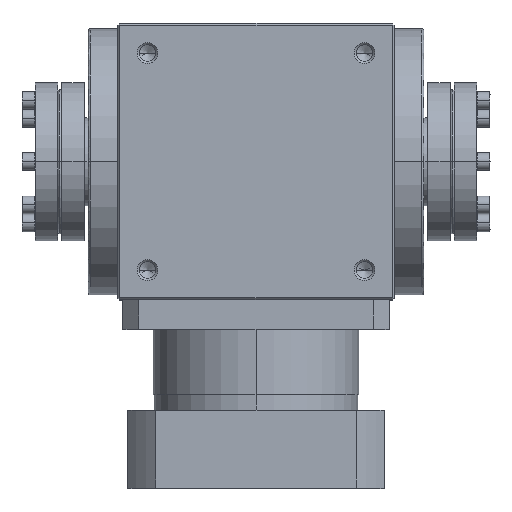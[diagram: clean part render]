
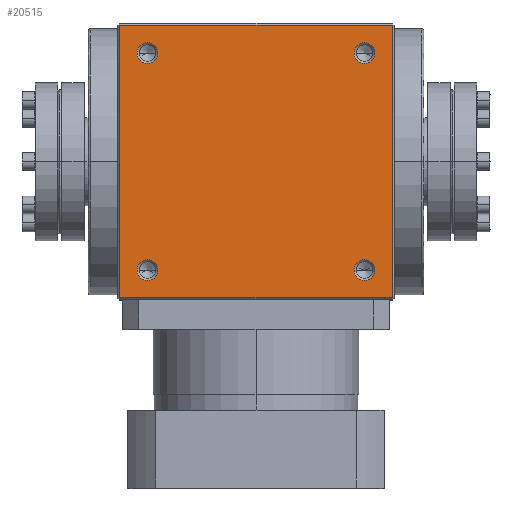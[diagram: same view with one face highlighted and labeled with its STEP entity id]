
A CAD part, top view. The second image highlights one B-rep face of the part: STEP entity #20515.
In plain terms, the highlighted planar face has unit normal (0, 0, 1).
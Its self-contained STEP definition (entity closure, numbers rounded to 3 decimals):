
#351 = FACE_OUTER_BOUND ( 'NONE', #15514, .T. ) ;
#423 = EDGE_CURVE ( 'NONE', #3936, #12280, #15466, .T. ) ;
#440 = ORIENTED_EDGE ( 'NONE', *, *, #22420, .F. ) ;
#893 = FACE_BOUND ( 'NONE', #7172, .T. ) ;
#1141 = CARTESIAN_POINT ( 'NONE',  ( -69., 69., 70. ) ) ;
#1149 = VERTEX_POINT ( 'NONE', #17119 ) ;
#1211 = CARTESIAN_POINT ( 'NONE',  ( 69., -69., 70. ) ) ;
#1248 = VERTEX_POINT ( 'NONE', #21735 ) ;
#1268 = CARTESIAN_POINT ( 'NONE',  ( 69., -69., 70. ) ) ;
#1317 = CARTESIAN_POINT ( 'NONE',  ( 49.75, 55., 70. ) ) ;
#1320 = ORIENTED_EDGE ( 'NONE', *, *, #13632, .F. ) ;
#1633 = DIRECTION ( 'NONE',  ( 0., 0., 1. ) ) ;
#1705 = ORIENTED_EDGE ( 'NONE', *, *, #11712, .F. ) ;
#1845 = DIRECTION ( 'NONE',  ( 1., 0., 0. ) ) ;
#2389 = VECTOR ( 'NONE', #15256, 1000. ) ;
#2392 = VERTEX_POINT ( 'NONE', #20912 ) ;
#2545 = AXIS2_PLACEMENT_3D ( 'NONE', #5990, #18102, #7710 ) ;
#2561 = ORIENTED_EDGE ( 'NONE', *, *, #423, .F. ) ;
#3005 = DIRECTION ( 'NONE',  ( -1., 0., 0. ) ) ;
#3133 = EDGE_LOOP ( 'NONE', ( #4556, #9568 ) ) ;
#3520 = EDGE_CURVE ( 'NONE', #1149, #3580, #12619, .T. ) ;
#3580 = VERTEX_POINT ( 'NONE', #13787 ) ;
#3582 = CARTESIAN_POINT ( 'NONE',  ( -55., -55., 70. ) ) ;
#3839 = AXIS2_PLACEMENT_3D ( 'NONE', #16820, #6438, #18562 ) ;
#3921 = DIRECTION ( 'NONE',  ( 0., 0., 1. ) ) ;
#3936 = VERTEX_POINT ( 'NONE', #1141 ) ;
#4502 = DIRECTION ( 'NONE',  ( 0., 0., 1. ) ) ;
#4507 = AXIS2_PLACEMENT_3D ( 'NONE', #3582, #13934, #1845 ) ;
#4556 = ORIENTED_EDGE ( 'NONE', *, *, #10674, .F. ) ;
#4812 = CARTESIAN_POINT ( 'NONE',  ( 0., -69., 70. ) ) ;
#4830 = EDGE_LOOP ( 'NONE', ( #12104, #14197 ) ) ;
#4972 = FACE_BOUND ( 'NONE', #9645, .T. ) ;
#5522 = ORIENTED_EDGE ( 'NONE', *, *, #8971, .F. ) ;
#5836 = VERTEX_POINT ( 'NONE', #1317 ) ;
#5854 = DIRECTION ( 'NONE',  ( 1., 0., 0. ) ) ;
#5990 = CARTESIAN_POINT ( 'NONE',  ( -55., -55., 70. ) ) ;
#6438 = DIRECTION ( 'NONE',  ( 0., 0., 1. ) ) ;
#6503 = EDGE_CURVE ( 'NONE', #3580, #1149, #13236, .T. ) ;
#6636 = AXIS2_PLACEMENT_3D ( 'NONE', #7016, #19137, #8780 ) ;
#6743 = CARTESIAN_POINT ( 'NONE',  ( -69., 0., 70. ) ) ;
#7016 = CARTESIAN_POINT ( 'NONE',  ( -55., 55., 70. ) ) ;
#7172 = EDGE_LOOP ( 'NONE', ( #14712, #1320 ) ) ;
#7556 = DIRECTION ( 'NONE',  ( 0., -1., 0. ) ) ;
#7568 = CARTESIAN_POINT ( 'NONE',  ( 0., 69., 70. ) ) ;
#7710 = DIRECTION ( 'NONE',  ( 1., 0., 0. ) ) ;
#8352 = EDGE_CURVE ( 'NONE', #9013, #9847, #11037, .T. ) ;
#8458 = DIRECTION ( 'NONE',  ( 0., 0., 1. ) ) ;
#8780 = DIRECTION ( 'NONE',  ( 1., 0., 0. ) ) ;
#8971 = EDGE_CURVE ( 'NONE', #12280, #9847, #17003, .T. ) ;
#9013 = VERTEX_POINT ( 'NONE', #9455 ) ;
#9117 = CIRCLE ( 'NONE', #3839, 5.25 ) ;
#9141 = EDGE_CURVE ( 'NONE', #16138, #2392, #9117, .T. ) ;
#9226 = CIRCLE ( 'NONE', #15219, 5.25 ) ;
#9455 = CARTESIAN_POINT ( 'NONE',  ( -69., -69., 70. ) ) ;
#9552 = FACE_BOUND ( 'NONE', #3133, .T. ) ;
#9568 = ORIENTED_EDGE ( 'NONE', *, *, #12208, .F. ) ;
#9645 = EDGE_LOOP ( 'NONE', ( #1705, #440 ) ) ;
#9847 = VERTEX_POINT ( 'NONE', #1211 ) ;
#10511 = VERTEX_POINT ( 'NONE', #11353 ) ;
#10674 = EDGE_CURVE ( 'NONE', #20189, #1248, #19612, .T. ) ;
#10845 = VECTOR ( 'NONE', #5854, 1000. ) ;
#11014 = AXIS2_PLACEMENT_3D ( 'NONE', #18827, #8458, #20568 ) ;
#11037 = LINE ( 'NONE', #4812, #2389 ) ;
#11041 = ORIENTED_EDGE ( 'NONE', *, *, #8352, .T. ) ;
#11353 = CARTESIAN_POINT ( 'NONE',  ( 60.25, 55., 70. ) ) ;
#11372 = LINE ( 'NONE', #6743, #11920 ) ;
#11712 = EDGE_CURVE ( 'NONE', #10511, #5836, #19014, .T. ) ;
#11920 = VECTOR ( 'NONE', #18853, 1000. ) ;
#11979 = CARTESIAN_POINT ( 'NONE',  ( 55., 55., 70. ) ) ;
#12104 = ORIENTED_EDGE ( 'NONE', *, *, #3520, .F. ) ;
#12208 = EDGE_CURVE ( 'NONE', #1248, #20189, #9226, .T. ) ;
#12280 = VERTEX_POINT ( 'NONE', #19595 ) ;
#12619 = CIRCLE ( 'NONE', #4507, 5.25 ) ;
#13053 = EDGE_CURVE ( 'NONE', #9013, #3936, #11372, .T. ) ;
#13236 = CIRCLE ( 'NONE', #2545, 5.25 ) ;
#13350 = DIRECTION ( 'NONE',  ( 0., 0., -1. ) ) ;
#13632 = EDGE_CURVE ( 'NONE', #2392, #16138, #18402, .T. ) ;
#13702 = DIRECTION ( 'NONE',  ( 1., 0., 0. ) ) ;
#13787 = CARTESIAN_POINT ( 'NONE',  ( -60.25, -55., 70. ) ) ;
#13934 = DIRECTION ( 'NONE',  ( 0., 0., 1. ) ) ;
#14197 = ORIENTED_EDGE ( 'NONE', *, *, #6503, .F. ) ;
#14290 = CARTESIAN_POINT ( 'NONE',  ( -55., 55., 70. ) ) ;
#14712 = ORIENTED_EDGE ( 'NONE', *, *, #9141, .F. ) ;
#14870 = CARTESIAN_POINT ( 'NONE',  ( 55., 55., 70. ) ) ;
#15219 = AXIS2_PLACEMENT_3D ( 'NONE', #14290, #3921, #16042 ) ;
#15256 = DIRECTION ( 'NONE',  ( 1., 0., 0. ) ) ;
#15466 = LINE ( 'NONE', #7568, #10845 ) ;
#15514 = EDGE_LOOP ( 'NONE', ( #11041, #5522, #2561, #18458 ) ) ;
#15794 = CARTESIAN_POINT ( 'NONE',  ( 60.25, -55., 70. ) ) ;
#16042 = DIRECTION ( 'NONE',  ( 1., 0., 0. ) ) ;
#16138 = VERTEX_POINT ( 'NONE', #15794 ) ;
#16294 = CIRCLE ( 'NONE', #19330, 5.25 ) ;
#16625 = DIRECTION ( 'NONE',  ( 1., 0., 0. ) ) ;
#16801 = PLANE ( 'NONE',  #19744 ) ;
#16820 = CARTESIAN_POINT ( 'NONE',  ( 55., -55., 70. ) ) ;
#17003 = LINE ( 'NONE', #19681, #21597 ) ;
#17119 = CARTESIAN_POINT ( 'NONE',  ( -49.75, -55., 70. ) ) ;
#18102 = DIRECTION ( 'NONE',  ( 0., 0., 1. ) ) ;
#18196 = CARTESIAN_POINT ( 'NONE',  ( -49.75, 55., 70. ) ) ;
#18402 = CIRCLE ( 'NONE', #11014, 5.25 ) ;
#18458 = ORIENTED_EDGE ( 'NONE', *, *, #13053, .F. ) ;
#18562 = DIRECTION ( 'NONE',  ( 1., 0., 0. ) ) ;
#18785 = FACE_BOUND ( 'NONE', #4830, .T. ) ;
#18827 = CARTESIAN_POINT ( 'NONE',  ( 55., -55., 70. ) ) ;
#18853 = DIRECTION ( 'NONE',  ( 0., 1., 0. ) ) ;
#19014 = CIRCLE ( 'NONE', #21148, 5.25 ) ;
#19137 = DIRECTION ( 'NONE',  ( 0., 0., 1. ) ) ;
#19330 = AXIS2_PLACEMENT_3D ( 'NONE', #14870, #4502, #16625 ) ;
#19595 = CARTESIAN_POINT ( 'NONE',  ( 69., 69., 70. ) ) ;
#19612 = CIRCLE ( 'NONE', #6636, 5.25 ) ;
#19681 = CARTESIAN_POINT ( 'NONE',  ( 69., 0., 70. ) ) ;
#19744 = AXIS2_PLACEMENT_3D ( 'NONE', #1268, #13350, #3005 ) ;
#20189 = VERTEX_POINT ( 'NONE', #18196 ) ;
#20515 = ADVANCED_FACE ( 'NONE', ( #9552, #4972, #18785, #893, #351 ), #16801, .F. ) ;
#20568 = DIRECTION ( 'NONE',  ( 1., 0., 0. ) ) ;
#20912 = CARTESIAN_POINT ( 'NONE',  ( 49.75, -55., 70. ) ) ;
#21148 = AXIS2_PLACEMENT_3D ( 'NONE', #11979, #1633, #13702 ) ;
#21597 = VECTOR ( 'NONE', #7556, 1000. ) ;
#21735 = CARTESIAN_POINT ( 'NONE',  ( -60.25, 55., 70. ) ) ;
#22420 = EDGE_CURVE ( 'NONE', #5836, #10511, #16294, .T. ) ;
